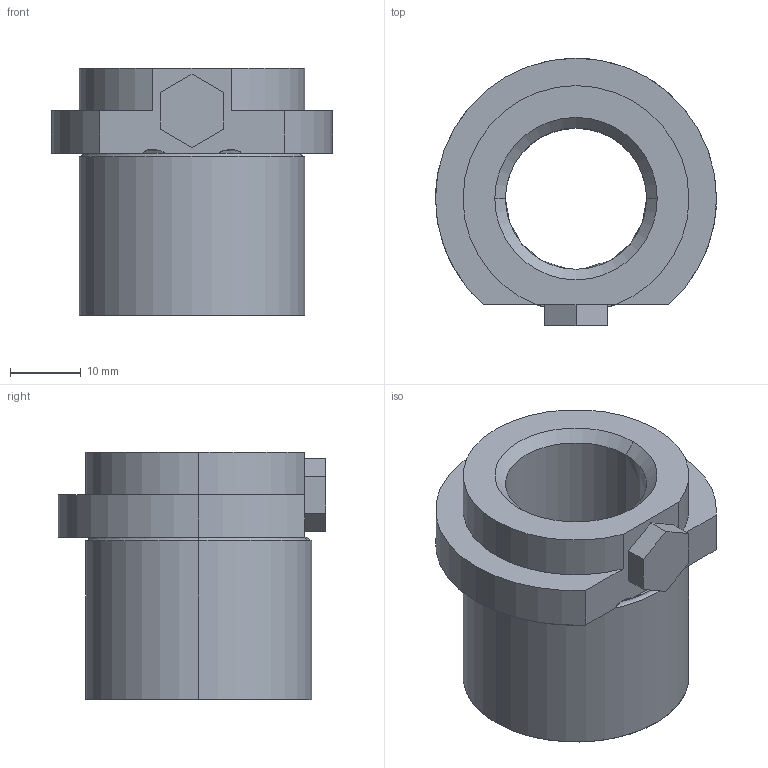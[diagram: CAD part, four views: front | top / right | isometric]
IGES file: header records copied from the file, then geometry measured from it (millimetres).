
Start section: START RECORD GO HERE.
Global section: file name: 740-20.igs; native system: DASSAULT SYSTEMES CATIA V5 R20 - www.3ds.com; preprocessor: CATIA Version 5 Release 20 ; author: Utente; organization: NB04-ASUS; date: 20210118.204050; units: millimetre
Bounding box: 39.8 x 37.9 x 35 mm (x, y, z)
Surface area: 7725 mm2 (no closed solid volume)
Topology: 0 solids, 0 shells, 35 faces, 178 edges, 178 vertices
Faces by surface type: revolution 21, plane 14
